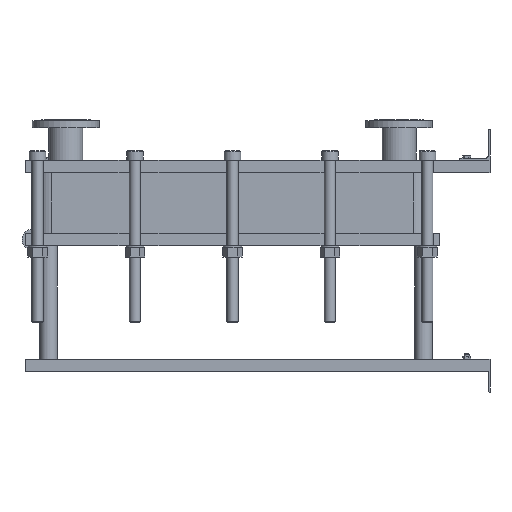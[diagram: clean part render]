
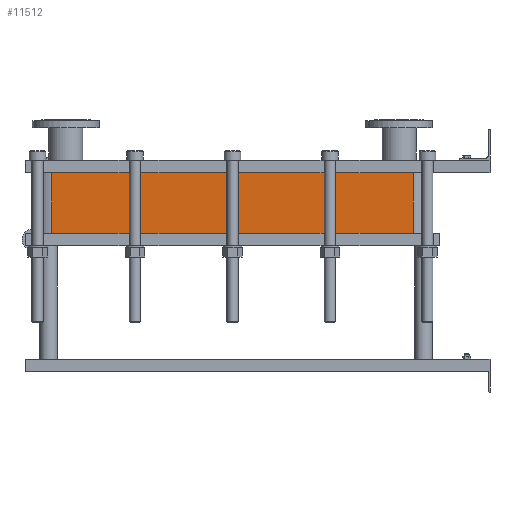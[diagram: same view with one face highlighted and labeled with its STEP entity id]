
A CAD part, left-side view. The second image highlights one B-rep face of the part: STEP entity #11512.
In plain terms, the highlighted planar face has unit normal (-1, 0, 0).
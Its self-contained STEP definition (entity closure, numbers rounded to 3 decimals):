
#1129=LINE('',#23232,#2102);
#1130=LINE('',#23236,#2103);
#1131=LINE('',#23238,#2104);
#1132=LINE('',#23239,#2105);
#2102=VECTOR('',#15887,10.);
#2103=VECTOR('',#15892,10.);
#2104=VECTOR('',#15893,10.);
#2105=VECTOR('',#15894,10.);
#3267=FACE_OUTER_BOUND('',#4093,.T.);
#4093=EDGE_LOOP('',(#10103,#10104,#10105,#10106));
#5642=VERTEX_POINT('',#23229);
#5643=VERTEX_POINT('',#23231);
#5644=VERTEX_POINT('',#23235);
#5645=VERTEX_POINT('',#23237);
#7159=EDGE_CURVE('',#5643,#5642,#1129,.T.);
#7161=EDGE_CURVE('',#5642,#5644,#1130,.T.);
#7162=EDGE_CURVE('',#5645,#5644,#1131,.T.);
#7163=EDGE_CURVE('',#5645,#5643,#1132,.T.);
#10103=ORIENTED_EDGE('',*,*,#7161,.T.);
#10104=ORIENTED_EDGE('',*,*,#7162,.F.);
#10105=ORIENTED_EDGE('',*,*,#7163,.T.);
#10106=ORIENTED_EDGE('',*,*,#7159,.T.);
#10857=PLANE('',#12751);
#11512=ADVANCED_FACE('',(#3267),#10857,.T.);
#12751=AXIS2_PLACEMENT_3D('',#23234,#15890,#15891);
#15887=DIRECTION('',(0.,0.,-1.));
#15890=DIRECTION('center_axis',(-1.,0.,0.));
#15891=DIRECTION('ref_axis',(0.,1.,0.));
#15892=DIRECTION('',(0.,-1.,0.));
#15893=DIRECTION('',(0.,0.,-1.));
#15894=DIRECTION('',(0.,1.,0.));
#23229=CARTESIAN_POINT('',(-200.,1414.,-196.65));
#23231=CARTESIAN_POINT('',(-200.,1414.,0.));
#23232=CARTESIAN_POINT('',(-200.,1414.,0.));
#23234=CARTESIAN_POINT('Origin',(-200.,248.,0.));
#23235=CARTESIAN_POINT('',(-200.,248.,-196.65));
#23236=CARTESIAN_POINT('',(-200.,539.5,-196.65));
#23237=CARTESIAN_POINT('',(-200.,248.,0.));
#23238=CARTESIAN_POINT('',(-200.,248.,0.));
#23239=CARTESIAN_POINT('',(-200.,248.,0.));
